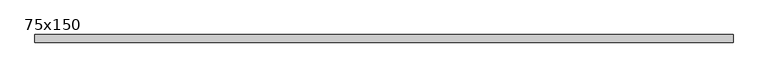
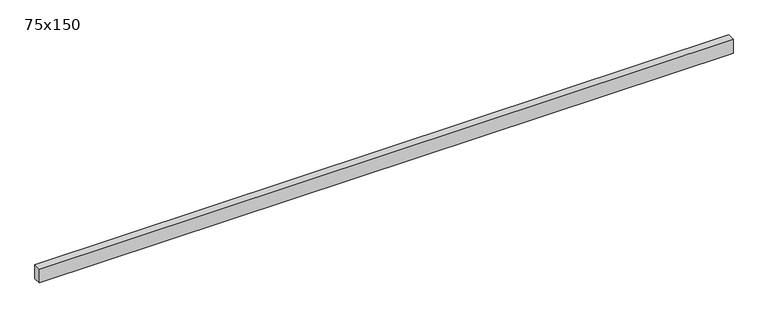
"""IFC4 building model written with IfcOpenShell, lengths in millimetres: beam geometry, Graded Timber : 75x150."""

from ifc_helpers import new_model, si_unit, frame, origin, place, context, project, spatial, polyline, outline, extrude, source, transform, mapped, element, save


def beam_75x150_3897ce90(model_context):
    return source(origin(), model_context, "Body", "SweptSolid", [
        extrude(outline(polyline([(5055.1930387, 37.5), (5055.1930387, -37.5), (-1790.0, -37.5), (-1790.0, 37.5), (5055.1930387, 37.5)])), frame((0.0, 0.0, -72.5), z_axis=(0.0, 0.0, 1.0), x_axis=(1.0, 0.0, 0.0)), (0.0, 0.0, 1.0), 145.0),
    ])


if __name__ == "__main__":
    model = new_model("IFC4")
    model_context = context("Model", 3, world=origin())
    ifc_project = project(units=[si_unit("LENGTHUNIT", "METRE", prefix="MILLI")], contexts=[model_context])
    site = spatial("IfcSite", under=ifc_project)
    building = spatial("IfcBuilding", under=site)
    placement = place(None, origin())
    beam_75x150_shape = beam_75x150_3897ce90(model_context)
    element("IfcBeam", 1, ObjectType="Graded Timber : 75x150", at=placement, inside=building, context=model_context, shape_type="MappedRepresentation", body=[
        mapped(beam_75x150_shape, transform((0.0, 0.0, 0.0), x_axis=(1.0, 0.0, 0.0), y_axis=(0.0, 1.0, 0.0), z_axis=(0.0, 0.0, 1.0))),
    ])
    save(model, "model.ifc")
